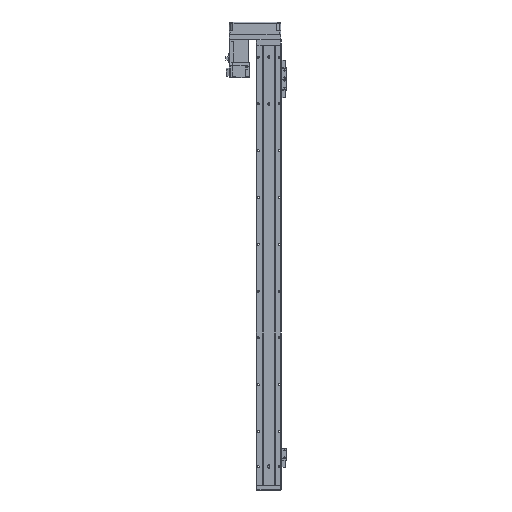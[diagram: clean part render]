
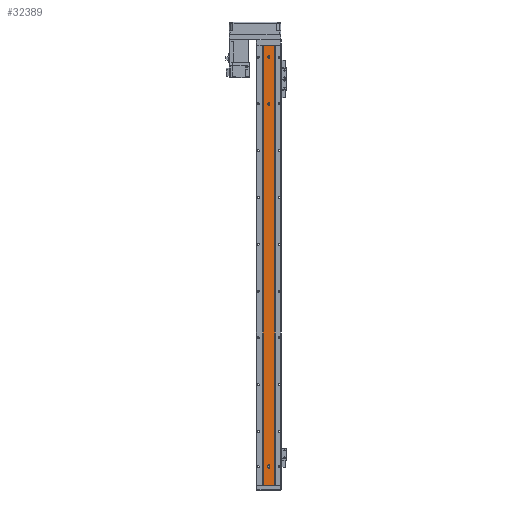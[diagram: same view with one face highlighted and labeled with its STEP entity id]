
A CAD part, front view. The second image highlights one B-rep face of the part: STEP entity #32389.
In plain terms, the highlighted planar face has unit normal (0, -1, 0).
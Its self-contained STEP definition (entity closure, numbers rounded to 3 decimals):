
#442 = DIRECTION ( 'NONE',  ( 0., -1., 0. ) ) ;
#1152 = ORIENTED_EDGE ( 'NONE', *, *, #6561, .F. ) ;
#1160 = LINE ( 'NONE', #27798, #32970 ) ;
#2358 = DIRECTION ( 'NONE',  ( 1., 0., 0. ) ) ;
#3402 = DIRECTION ( 'NONE',  ( 0., -1., 0. ) ) ;
#3956 = VECTOR ( 'NONE', #34579, 1000. ) ;
#4254 = DIRECTION ( 'NONE',  ( 1., 0., 0. ) ) ;
#4652 = DIRECTION ( 'NONE',  ( 0., -1., 0. ) ) ;
#5303 = VERTEX_POINT ( 'NONE', #11510 ) ;
#5502 = EDGE_CURVE ( 'NONE', #7962, #30574, #37704, .T. ) ;
#5671 = AXIS2_PLACEMENT_3D ( 'NONE', #21909, #3402, #28345 ) ;
#6561 = EDGE_CURVE ( 'NONE', #5303, #7962, #9501, .T. ) ;
#6675 = CARTESIAN_POINT ( 'NONE',  ( 0., 1.5, -901. ) ) ;
#6902 = ORIENTED_EDGE ( 'NONE', *, *, #34459, .F. ) ;
#6998 = EDGE_LOOP ( 'NONE', ( #25348, #18840 ) ) ;
#7494 = DIRECTION ( 'NONE',  ( 0., -1., 0. ) ) ;
#7592 = ORIENTED_EDGE ( 'NONE', *, *, #8654, .F. ) ;
#7667 = DIRECTION ( 'NONE',  ( 0., 0., 1. ) ) ;
#7962 = VERTEX_POINT ( 'NONE', #24395 ) ;
#8152 = EDGE_CURVE ( 'NONE', #20503, #11749, #37386, .T. ) ;
#8206 = VERTEX_POINT ( 'NONE', #19406 ) ;
#8223 = EDGE_CURVE ( 'NONE', #8206, #39820, #9905, .T. ) ;
#8654 = EDGE_CURVE ( 'NONE', #21619, #19694, #22906, .T. ) ;
#8817 = VECTOR ( 'NONE', #7667, 1000. ) ;
#8947 = AXIS2_PLACEMENT_3D ( 'NONE', #13978, #4652, #14385 ) ;
#9501 = CIRCLE ( 'NONE', #23625, 2.5 ) ;
#9905 = CIRCLE ( 'NONE', #8947, 2.5 ) ;
#9930 = ORIENTED_EDGE ( 'NONE', *, *, #33609, .F. ) ;
#11368 = CARTESIAN_POINT ( 'NONE',  ( 0., 1.5, -125. ) ) ;
#11510 = CARTESIAN_POINT ( 'NONE',  ( -2.5, 1.5, -901. ) ) ;
#11562 = CARTESIAN_POINT ( 'NONE',  ( -12.293, 1.5, 0. ) ) ;
#11685 = CARTESIAN_POINT ( 'NONE',  ( 12.293, 1.5, 0. ) ) ;
#11749 = VERTEX_POINT ( 'NONE', #36012 ) ;
#12364 = FACE_BOUND ( 'NONE', #24729, .T. ) ;
#13018 = CARTESIAN_POINT ( 'NONE',  ( -2.5, 1.5, -940. ) ) ;
#13095 = PLANE ( 'NONE',  #5671 ) ;
#13239 = VECTOR ( 'NONE', #20897, 1000. ) ;
#13340 = EDGE_LOOP ( 'NONE', ( #7592, #9930, #38571, #30376 ) ) ;
#13776 = EDGE_CURVE ( 'NONE', #24548, #5303, #15081, .T. ) ;
#13913 = EDGE_LOOP ( 'NONE', ( #6902, #27813 ) ) ;
#13978 = CARTESIAN_POINT ( 'NONE',  ( 0., 1.5, -125. ) ) ;
#14329 = EDGE_CURVE ( 'NONE', #30574, #24548, #38161, .T. ) ;
#14385 = DIRECTION ( 'NONE',  ( 1., 0., 0. ) ) ;
#14618 = LINE ( 'NONE', #26156, #8817 ) ;
#15081 = LINE ( 'NONE', #13018, #3956 ) ;
#16152 = EDGE_CURVE ( 'NONE', #18495, #19694, #14618, .T. ) ;
#16272 = CIRCLE ( 'NONE', #25745, 2.5 ) ;
#17078 = AXIS2_PLACEMENT_3D ( 'NONE', #19190, #442, #31560 ) ;
#18495 = VERTEX_POINT ( 'NONE', #29544 ) ;
#18629 = DIRECTION ( 'NONE',  ( 1., 0., 0. ) ) ;
#18683 = FACE_BOUND ( 'NONE', #13913, .T. ) ;
#18840 = ORIENTED_EDGE ( 'NONE', *, *, #8152, .F. ) ;
#18930 = DIRECTION ( 'NONE',  ( 0., 0., 1. ) ) ;
#19190 = CARTESIAN_POINT ( 'NONE',  ( 0., 1.5, -899. ) ) ;
#19406 = CARTESIAN_POINT ( 'NONE',  ( -2.5, 1.5, -125. ) ) ;
#19694 = VERTEX_POINT ( 'NONE', #31444 ) ;
#20202 = CARTESIAN_POINT ( 'NONE',  ( -2.5, 1.5, -25. ) ) ;
#20503 = VERTEX_POINT ( 'NONE', #20202 ) ;
#20897 = DIRECTION ( 'NONE',  ( 1., 0., 0. ) ) ;
#21035 = CARTESIAN_POINT ( 'NONE',  ( -2.5, 1.5, -899. ) ) ;
#21619 = VERTEX_POINT ( 'NONE', #11562 ) ;
#21909 = CARTESIAN_POINT ( 'NONE',  ( 12.293, 1.5, -940. ) ) ;
#22092 = FACE_BOUND ( 'NONE', #6998, .T. ) ;
#22501 = CARTESIAN_POINT ( 'NONE',  ( 2.5, 1.5, -125. ) ) ;
#22777 = CARTESIAN_POINT ( 'NONE',  ( 0., 1.5, -25. ) ) ;
#22906 = LINE ( 'NONE', #11685, #13239 ) ;
#23625 = AXIS2_PLACEMENT_3D ( 'NONE', #6675, #28268, #30819 ) ;
#24395 = CARTESIAN_POINT ( 'NONE',  ( 2.5, 1.5, -901. ) ) ;
#24548 = VERTEX_POINT ( 'NONE', #21035 ) ;
#24729 = EDGE_LOOP ( 'NONE', ( #1152, #25517, #32527, #39669 ) ) ;
#25348 = ORIENTED_EDGE ( 'NONE', *, *, #26561, .F. ) ;
#25517 = ORIENTED_EDGE ( 'NONE', *, *, #13776, .F. ) ;
#25745 = AXIS2_PLACEMENT_3D ( 'NONE', #38502, #7494, #29609 ) ;
#26156 = CARTESIAN_POINT ( 'NONE',  ( 12.293, 1.5, -940. ) ) ;
#26357 = VECTOR ( 'NONE', #18629, 1000. ) ;
#26561 = EDGE_CURVE ( 'NONE', #11749, #20503, #16272, .T. ) ;
#27145 = CARTESIAN_POINT ( 'NONE',  ( -12.293, 1.5, -940. ) ) ;
#27331 = LINE ( 'NONE', #31760, #26357 ) ;
#27798 = CARTESIAN_POINT ( 'NONE',  ( -12.293, 1.5, -940. ) ) ;
#27813 = ORIENTED_EDGE ( 'NONE', *, *, #8223, .F. ) ;
#28268 = DIRECTION ( 'NONE',  ( 0., -1., 0. ) ) ;
#28345 = DIRECTION ( 'NONE',  ( 1., 0., 0. ) ) ;
#28516 = CARTESIAN_POINT ( 'NONE',  ( 2.5, 1.5, -940. ) ) ;
#28558 = DIRECTION ( 'NONE',  ( 0., -1., 0. ) ) ;
#29520 = AXIS2_PLACEMENT_3D ( 'NONE', #11368, #36055, #2358 ) ;
#29544 = CARTESIAN_POINT ( 'NONE',  ( 12.293, 1.5, -940. ) ) ;
#29609 = DIRECTION ( 'NONE',  ( 1., 0., 0. ) ) ;
#29979 = VECTOR ( 'NONE', #34845, 1000. ) ;
#30376 = ORIENTED_EDGE ( 'NONE', *, *, #16152, .T. ) ;
#30574 = VERTEX_POINT ( 'NONE', #36852 ) ;
#30819 = DIRECTION ( 'NONE',  ( 1., 0., 0. ) ) ;
#31444 = CARTESIAN_POINT ( 'NONE',  ( 12.293, 1.5, 0. ) ) ;
#31560 = DIRECTION ( 'NONE',  ( 1., 0., 0. ) ) ;
#31760 = CARTESIAN_POINT ( 'NONE',  ( 12.293, 1.5, -940. ) ) ;
#32389 = ADVANCED_FACE ( 'NONE', ( #12364, #18683, #22092, #32661 ), #13095, .T. ) ;
#32527 = ORIENTED_EDGE ( 'NONE', *, *, #14329, .F. ) ;
#32593 = EDGE_CURVE ( 'NONE', #35555, #18495, #27331, .T. ) ;
#32661 = FACE_OUTER_BOUND ( 'NONE', #13340, .T. ) ;
#32970 = VECTOR ( 'NONE', #18930, 1000. ) ;
#33609 = EDGE_CURVE ( 'NONE', #35555, #21619, #1160, .T. ) ;
#34459 = EDGE_CURVE ( 'NONE', #39820, #8206, #39264, .T. ) ;
#34579 = DIRECTION ( 'NONE',  ( 0., 0., -1. ) ) ;
#34845 = DIRECTION ( 'NONE',  ( 0., 0., 1. ) ) ;
#35555 = VERTEX_POINT ( 'NONE', #27145 ) ;
#36012 = CARTESIAN_POINT ( 'NONE',  ( 2.5, 1.5, -25. ) ) ;
#36055 = DIRECTION ( 'NONE',  ( 0., -1., 0. ) ) ;
#36597 = AXIS2_PLACEMENT_3D ( 'NONE', #22777, #28558, #4254 ) ;
#36852 = CARTESIAN_POINT ( 'NONE',  ( 2.5, 1.5, -899. ) ) ;
#37386 = CIRCLE ( 'NONE', #36597, 2.5 ) ;
#37704 = LINE ( 'NONE', #28516, #29979 ) ;
#38161 = CIRCLE ( 'NONE', #17078, 2.5 ) ;
#38502 = CARTESIAN_POINT ( 'NONE',  ( 0., 1.5, -25. ) ) ;
#38571 = ORIENTED_EDGE ( 'NONE', *, *, #32593, .T. ) ;
#39264 = CIRCLE ( 'NONE', #29520, 2.5 ) ;
#39669 = ORIENTED_EDGE ( 'NONE', *, *, #5502, .F. ) ;
#39820 = VERTEX_POINT ( 'NONE', #22501 ) ;
